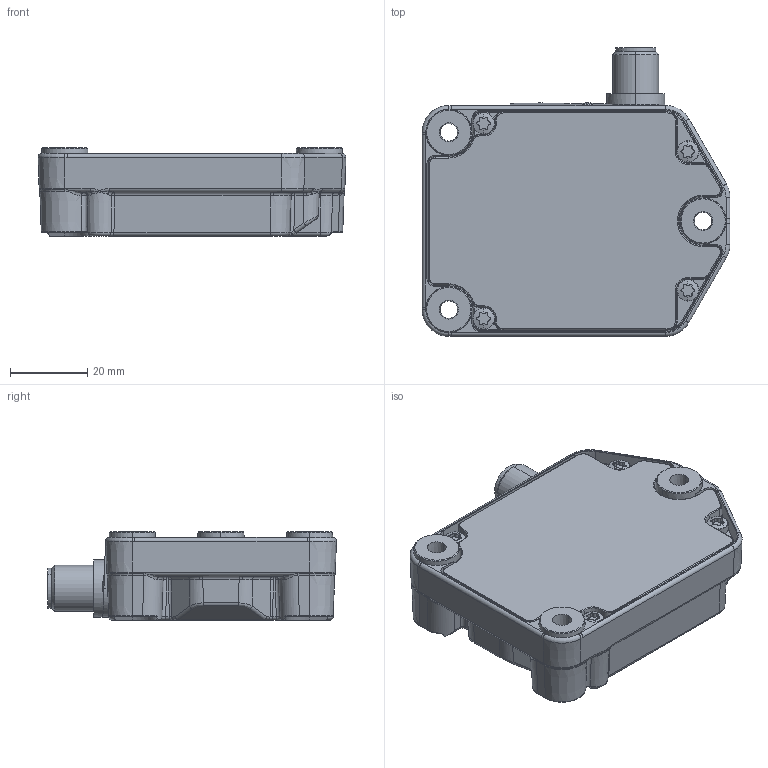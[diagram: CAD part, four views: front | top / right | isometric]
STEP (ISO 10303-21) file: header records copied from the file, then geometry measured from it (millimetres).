
FILE_DESCRIPTION (( 'STEP AP203' ), '1' );
FILE_NAME ('8.IN88.XX21.121.STEP', '2017-01-31T07:58:27', ( '' ), ( '' ), 'SwSTEP 2.0', 'SolidWorks 2013', '' );
FILE_SCHEMA (( 'CONFIG_CONTROL_DESIGN' ));
Products named in the file (1): 8.IN88.XX21.121
Bounding box: 79.93 x 74.96 x 23 mm (x, y, z)
Volume: 45635.6 mm3; surface area: 34219.6 mm2
Topology: 8 solids, 8 shells, 1437 faces, 3443 edges, 2049 vertices
Faces by surface type: cylinder 438, plane 307, cone 249, torus 217, bspline 191, sphere 35
Entity records: 46982 total; most frequent: CARTESIAN_POINT 14806, DIRECTION 6832, ORIENTED_EDGE 6778, EDGE_CURVE 3389, AXIS2_PLACEMENT_3D 2758, VERTEX_POINT 2039, EDGE_LOOP 1526, CIRCLE 1511
